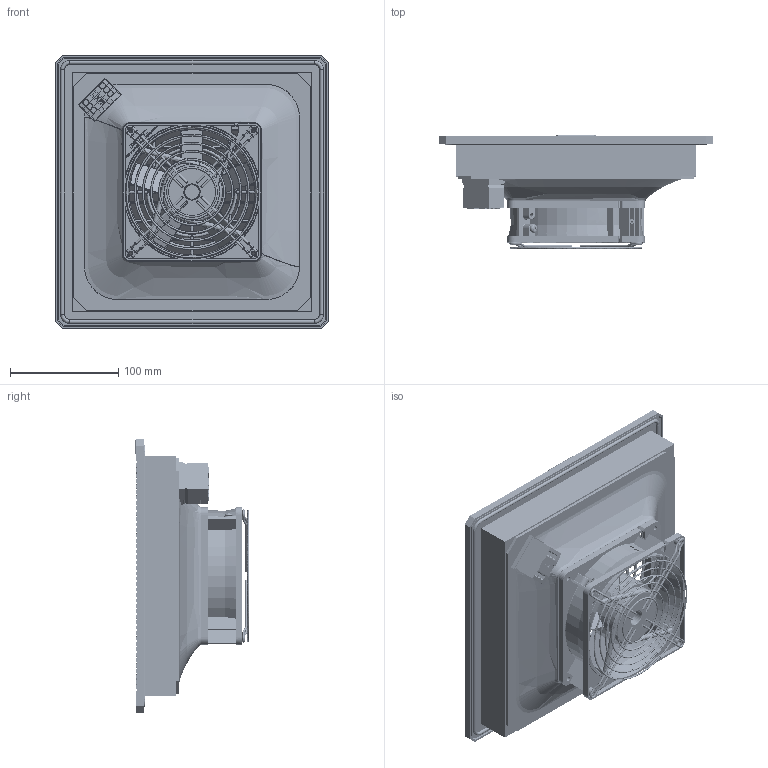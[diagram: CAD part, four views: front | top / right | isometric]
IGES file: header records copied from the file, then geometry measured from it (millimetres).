
Start section: SolidWorks IGES file using analytic representation for surfaces
Global section: file name: O:\Technik\Dokumentation\3D Volumenmodelle\PF 42500\PF42500_AC.IGS; native system: SolidWorks 2007; preprocessor: SolidWorks 2007; author: AHoltz; date: 070529.161019; units: millimetre
Bounding box: 252 x 104.94 x 252 mm (x, y, z)
Surface area: 534091.6 mm2 (no closed solid volume)
Topology: 0 solids, 0 shells, 3294 faces, 35984 edges, 35931 vertices
Faces by surface type: bspline 2546, revolution 748
